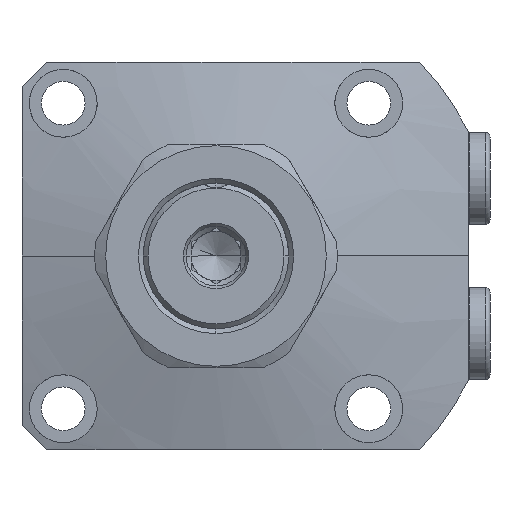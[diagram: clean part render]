
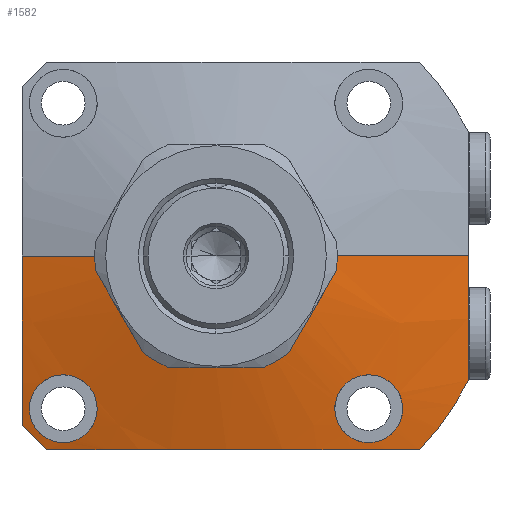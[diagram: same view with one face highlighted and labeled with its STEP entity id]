
A CAD part, left-side view. The second image highlights one B-rep face of the part: STEP entity #1582.
In plain terms, the highlighted conical face has half-angle 75 degrees and reference radius 22.5 mm.
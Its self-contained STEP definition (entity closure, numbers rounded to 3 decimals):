
#1065=FACE_BOUND('',#2285,.T.);
#1066=FACE_BOUND('',#2286,.T.);
#1067=FACE_BOUND('',#2287,.T.);
#1201=B_SPLINE_CURVE_WITH_KNOTS('',3,(#9575,#9576,#9577,#9578,#9579,#9580,
#9581,#9582,#9583,#9584),.UNSPECIFIED.,.F.,.F.,(4,2,2,2,4),(0.,0.25,0.5,
0.75,1.),.UNSPECIFIED.);
#1202=B_SPLINE_CURVE_WITH_KNOTS('',3,(#9593,#9594,#9595,#9596,#9597,#9598,
#9599,#9600,#9601,#9602),.UNSPECIFIED.,.F.,.F.,(4,2,2,2,4),(0.,0.25,0.5,
0.75,1.),.UNSPECIFIED.);
#1212=B_SPLINE_CURVE_WITH_KNOTS('',3,(#9964,#9965,#9966,#9967,#9968,#9969),
 .UNSPECIFIED.,.F.,.F.,(4,2,4),(0.,0.5,1.),.UNSPECIFIED.);
#1216=B_SPLINE_CURVE_WITH_KNOTS('',3,(#10114,#10115,#10116,#10117),
 .UNSPECIFIED.,.F.,.F.,(4,4),(0.,1.),.UNSPECIFIED.);
#1217=B_SPLINE_CURVE_WITH_KNOTS('',3,(#10119,#10120,#10121,#10122),
 .UNSPECIFIED.,.F.,.F.,(4,4),(0.,1.),.UNSPECIFIED.);
#1218=B_SPLINE_CURVE_WITH_KNOTS('',3,(#10123,#10124,#10125,#10126),
 .UNSPECIFIED.,.F.,.F.,(4,4),(0.,1.),.UNSPECIFIED.);
#1219=B_SPLINE_CURVE_WITH_KNOTS('',3,(#10127,#10128,#10129,#10130,#10131,
#10132,#10133,#10134,#10135,#10136),.UNSPECIFIED.,.F.,.F.,(4,2,2,2,4),(0.,
0.25,0.5,0.75,1.),.UNSPECIFIED.);
#1220=B_SPLINE_CURVE_WITH_KNOTS('',3,(#10137,#10138,#10139,#10140,#10141,
#10142,#10143,#10144,#10145,#10146),.UNSPECIFIED.,.F.,.F.,(4,2,2,2,4),(0.,
0.25,0.5,0.75,1.),.UNSPECIFIED.);
#1582=ADVANCED_FACE('',(#1065,#1066,#1067),#1713,.T.);
#1713=CONICAL_SURFACE('',#6479,22.5,75.);
#2285=EDGE_LOOP('',(#3969,#3970,#3971,#3972,#3973,#3974,#3975,#3976));
#2286=EDGE_LOOP('',(#3977,#3978));
#2287=EDGE_LOOP('',(#3979,#3980));
#2556=LINE('',#9654,#2813);
#2557=LINE('',#9680,#2814);
#2813=VECTOR('',#7561,1.);
#2814=VECTOR('',#7564,1.);
#3969=ORIENTED_EDGE('',*,*,#5242,.F.);
#3970=ORIENTED_EDGE('',*,*,#5412,.F.);
#3971=ORIENTED_EDGE('',*,*,#5248,.T.);
#3972=ORIENTED_EDGE('',*,*,#5413,.T.);
#3973=ORIENTED_EDGE('',*,*,#5414,.T.);
#3974=ORIENTED_EDGE('',*,*,#5357,.T.);
#3975=ORIENTED_EDGE('',*,*,#5373,.T.);
#3976=ORIENTED_EDGE('',*,*,#5415,.T.);
#3977=ORIENTED_EDGE('',*,*,#5416,.F.);
#3978=ORIENTED_EDGE('',*,*,#5221,.F.);
#3979=ORIENTED_EDGE('',*,*,#5417,.F.);
#3980=ORIENTED_EDGE('',*,*,#5225,.F.);
#4634=VERTEX_POINT('',#9574);
#4635=VERTEX_POINT('',#9585);
#4638=VERTEX_POINT('',#9592);
#4639=VERTEX_POINT('',#9603);
#4650=VERTEX_POINT('',#9652);
#4651=VERTEX_POINT('',#9653);
#4652=VERTEX_POINT('',#9655);
#4657=VERTEX_POINT('',#9679);
#4740=VERTEX_POINT('',#9958);
#4743=VERTEX_POINT('',#9963);
#4749=VERTEX_POINT('',#10026);
#4756=VERTEX_POINT('',#10118);
#5221=EDGE_CURVE('',#4634,#4635,#1201,.T.);
#5225=EDGE_CURVE('',#4638,#4639,#1202,.T.);
#5242=EDGE_CURVE('',#4650,#4652,#2556,.T.);
#5248=EDGE_CURVE('',#4651,#4657,#2557,.T.);
#5357=EDGE_CURVE('',#4740,#4743,#1212,.T.);
#5373=EDGE_CURVE('',#4743,#4749,#5828,.T.);
#5412=EDGE_CURVE('',#4651,#4650,#5858,.T.);
#5413=EDGE_CURVE('',#4657,#4756,#1216,.T.);
#5414=EDGE_CURVE('',#4756,#4740,#1217,.T.);
#5415=EDGE_CURVE('',#4749,#4652,#1218,.T.);
#5416=EDGE_CURVE('',#4635,#4634,#1219,.T.);
#5417=EDGE_CURVE('',#4639,#4638,#1220,.T.);
#5828=CIRCLE('',#6413,58.);
#5858=CIRCLE('',#6478,22.5);
#6413=AXIS2_PLACEMENT_3D('',#10027,#7831,#7832);
#6478=AXIS2_PLACEMENT_3D('',#10113,#7969,#7970);
#6479=AXIS2_PLACEMENT_3D('',#10147,#7971,#7972);
#7561=DIRECTION('',(0.259,-0.966,0.));
#7564=DIRECTION('',(0.259,0.966,0.));
#7831=DIRECTION('',(-1.,0.,0.));
#7832=DIRECTION('',(0.,-1.,0.));
#7969=DIRECTION('',(-1.,0.,0.));
#7970=DIRECTION('',(0.,-1.,0.));
#7971=DIRECTION('',(1.,0.,0.));
#7972=DIRECTION('',(0.,-1.,0.));
#9574=CARTESIAN_POINT('',(-33.336,-24.5,-31.5));
#9575=CARTESIAN_POINT('',(-33.336,-24.5,-31.5));
#9576=CARTESIAN_POINT('',(-32.947,-24.5,-33.34));
#9577=CARTESIAN_POINT('',(-32.443,-25.238,-35.108));
#9578=CARTESIAN_POINT('',(-31.49,-27.753,-37.68));
#9579=CARTESIAN_POINT('',(-31.039,-29.541,-38.464));
#9580=CARTESIAN_POINT('',(-30.407,-33.192,-38.533));
#9581=CARTESIAN_POINT('',(-30.221,-35.065,-37.807));
#9582=CARTESIAN_POINT('',(-30.212,-37.73,-35.197));
#9583=CARTESIAN_POINT('',(-30.385,-38.5,-33.355));
#9584=CARTESIAN_POINT('',(-30.7,-38.5,-31.5));
#9585=CARTESIAN_POINT('',(-30.7,-38.5,-31.5));
#9592=CARTESIAN_POINT('',(-30.7,38.5,-31.5));
#9593=CARTESIAN_POINT('',(-30.7,38.5,-31.5));
#9594=CARTESIAN_POINT('',(-30.385,38.5,-33.354));
#9595=CARTESIAN_POINT('',(-30.213,37.728,-35.195));
#9596=CARTESIAN_POINT('',(-30.221,35.08,-37.795));
#9597=CARTESIAN_POINT('',(-30.403,33.213,-38.532));
#9598=CARTESIAN_POINT('',(-31.039,29.539,-38.466));
#9599=CARTESIAN_POINT('',(-31.488,27.758,-37.685));
#9600=CARTESIAN_POINT('',(-32.445,25.233,-35.104));
#9601=CARTESIAN_POINT('',(-32.947,24.5,-33.339));
#9602=CARTESIAN_POINT('',(-33.336,24.5,-31.5));
#9603=CARTESIAN_POINT('',(-33.336,24.5,-31.5));
#9652=CARTESIAN_POINT('',(-38.,-22.5,0.));
#9653=CARTESIAN_POINT('',(-38.,22.5,0.));
#9654=CARTESIAN_POINT('',(-38.,-22.5,0.));
#9655=CARTESIAN_POINT('',(-30.095,-52.,0.));
#9679=CARTESIAN_POINT('',(-33.311,40.,0.));
#9680=CARTESIAN_POINT('',(-38.,22.5,0.));
#9958=CARTESIAN_POINT('',(-29.787,35.,-40.));
#9963=CARTESIAN_POINT('',(-28.488,-42.,-40.));
#9964=CARTESIAN_POINT('',(-29.787,35.,-40.));
#9965=CARTESIAN_POINT('',(-32.039,22.239,-40.));
#9966=CARTESIAN_POINT('',(-33.566,9.448,-40.));
#9967=CARTESIAN_POINT('',(-32.978,-16.291,-40.));
#9968=CARTESIAN_POINT('',(-30.965,-29.233,-40.));
#9969=CARTESIAN_POINT('',(-28.488,-42.,-40.));
#10026=CARTESIAN_POINT('',(-28.488,-52.,-25.69));
#10027=CARTESIAN_POINT('',(-28.488,0.,0.));
#10113=CARTESIAN_POINT('',(-38.,0.,0.));
#10114=CARTESIAN_POINT('',(-33.311,40.,0.));
#10115=CARTESIAN_POINT('',(-33.311,40.,-11.785));
#10116=CARTESIAN_POINT('',(-31.83,40.,-23.421));
#10117=CARTESIAN_POINT('',(-29.787,40.,-35.));
#10118=CARTESIAN_POINT('',(-29.787,40.,-35.));
#10119=CARTESIAN_POINT('',(-29.787,40.,-35.));
#10120=CARTESIAN_POINT('',(-29.829,38.334,-36.666));
#10121=CARTESIAN_POINT('',(-29.829,36.666,-38.334));
#10122=CARTESIAN_POINT('',(-29.787,35.,-40.));
#10123=CARTESIAN_POINT('',(-28.488,-52.,-25.69));
#10124=CARTESIAN_POINT('',(-29.501,-52.,-17.157));
#10125=CARTESIAN_POINT('',(-30.095,-52.,-8.597));
#10126=CARTESIAN_POINT('',(-30.095,-52.,0.));
#10127=CARTESIAN_POINT('',(-30.7,-38.5,-31.5));
#10128=CARTESIAN_POINT('',(-31.015,-38.5,-29.642));
#10129=CARTESIAN_POINT('',(-31.46,-37.742,-27.857));
#10130=CARTESIAN_POINT('',(-32.412,-35.21,-25.297));
#10131=CARTESIAN_POINT('',(-32.923,-33.428,-24.53));
#10132=CARTESIAN_POINT('',(-33.701,-29.8,-24.471));
#10133=CARTESIAN_POINT('',(-33.962,-27.932,-25.194));
#10134=CARTESIAN_POINT('',(-33.974,-25.263,-27.813));
#10135=CARTESIAN_POINT('',(-33.726,-24.5,-29.656));
#10136=CARTESIAN_POINT('',(-33.336,-24.5,-31.5));
#10137=CARTESIAN_POINT('',(-33.336,24.5,-31.5));
#10138=CARTESIAN_POINT('',(-33.726,24.5,-29.657));
#10139=CARTESIAN_POINT('',(-33.973,25.265,-27.816));
#10140=CARTESIAN_POINT('',(-33.963,27.913,-25.208));
#10141=CARTESIAN_POINT('',(-33.705,29.777,-24.473));
#10142=CARTESIAN_POINT('',(-32.921,33.435,-24.529));
#10143=CARTESIAN_POINT('',(-32.414,35.206,-25.292));
#10144=CARTESIAN_POINT('',(-31.458,37.747,-27.862));
#10145=CARTESIAN_POINT('',(-31.015,38.5,-29.643));
#10146=CARTESIAN_POINT('',(-30.7,38.5,-31.5));
#10147=CARTESIAN_POINT('',(-38.,0.,0.));
